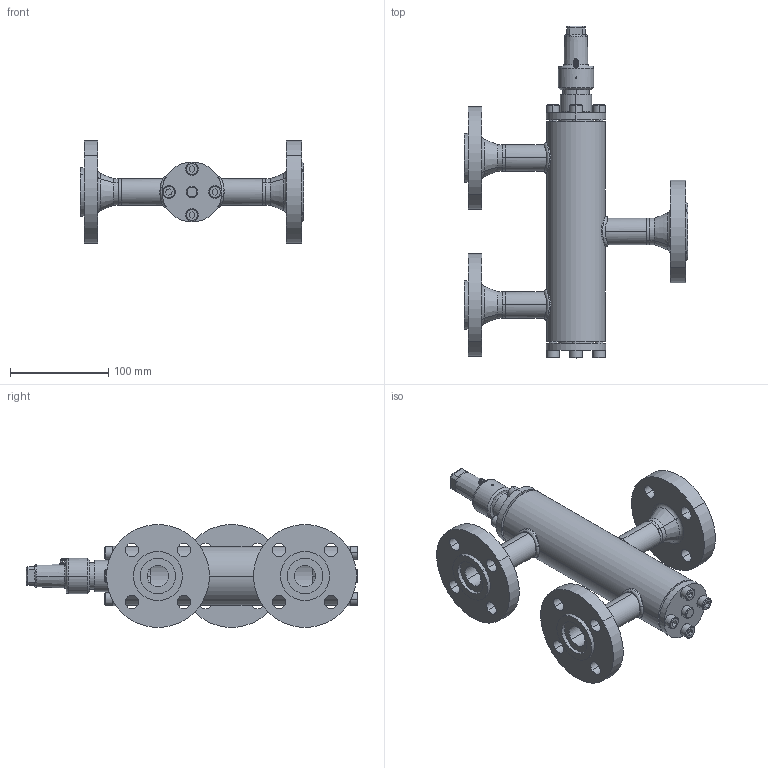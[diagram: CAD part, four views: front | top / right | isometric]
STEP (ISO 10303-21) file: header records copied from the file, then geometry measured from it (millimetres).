
FILE_DESCRIPTION (( 'STEP AP214' ), '1' );
FILE_NAME ('WVR24020D11-DN020_DIN-FL-N-F_PS40.STEP', '2010-09-08T08:48:04', ( 'Eckhard Grams' ), ( 'AWP Kälte Klima Armaturen GmbH' ), 'SwSTEP 2.0', 'SolidWorks 2002296', '' );
FILE_SCHEMA (( 'AUTOMOTIVE_DESIGN' ));
Length unit declared in the file: millimetre
Products named in the file (18): WVR24020D11-DN020_DIN-FL-N-F_PS40; Geh,kpl24020E11-DN20_DIN-FL-N-F_PS40_Standard; Geh,kpl24000E11_DN20_R1_PS40_Standard; Gehäuse24000E11-DN20_R1_PS40_Standard; Rohrstutzen-24000E11-DN20_R1_Standard; Schw-24000E11-DN20_Standard; Flansch-DIN2635-Nut_PS40_DIN-Flansch-DN020_PS40-Nut; Flansch-DIN2635-Feder_PS40_DIN-Flansch-DN020_PS40-Feder; bead24020-11-1_Standard; bead24020-11-3_Standard; bead24020-11-2_Standard; WVB-R23000K10_Deck+Schr-DN10-20_Standard; Deckel24000E10-DN10-20_Standard; Zylinderschraube-DIN912_M 8x  25; Kappe 96300E10_DN6-20 (M27x2)_Standard; AVR26300K10_Deck+Schr-DN10-20_Standard; Zylinderschraube-DIN912_M 8x  16; Deckel26300K10-DN10-20_Standard
Assembly tree (28 placements, depth 4):
  WVR24020D11-DN020_DIN-FL-N-F_PS40
    Kappe 96300E10_DN6-20 (M27x2)_Standard
    WVB-R23000K10_Deck+Schr-DN10-20_Standard
      Zylinderschraube-DIN912_M 8x  25  x4
      Deckel24000E10-DN10-20_Standard
    AVR26300K10_Deck+Schr-DN10-20_Standard
      Zylinderschraube-DIN912_M 8x  16  x4
      Deckel26300K10-DN10-20_Standard
    Geh,kpl24020E11-DN20_DIN-FL-N-F_PS40_Standard
      Geh,kpl24000E11_DN20_R1_PS40_Standard
        Schw-24000E11-DN20_Standard  x3
        Rohrstutzen-24000E11-DN20_R1_Standard  x3
        Gehäuse24000E11-DN20_R1_PS40_Standard
      Flansch-DIN2635-Feder_PS40_DIN-Flansch-DN020_PS40-Feder  x2
      bead24020-11-3_Standard
      Flansch-DIN2635-Nut_PS40_DIN-Flansch-DN020_PS40-Nut
      bead24020-11-2_Standard
      bead24020-11-1_Standard
Bounding box: 228 x 338.5 x 104.6 mm (x, y, z)
Volume: 948756.7 mm3; surface area: 223154.7 mm2
Topology: 24 solids, 24 shells, 514 faces, 1185 edges, 745 vertices
Faces by surface type: cylinder 222, plane 144, cone 67, torus 47, bspline 34
Entity records: 27879 total; most frequent: CARTESIAN_POINT 18716, DIRECTION 1711, ORIENTED_EDGE 1602, EDGE_CURVE 801, AXIS2_PLACEMENT_3D 726, VERTEX_POINT 503, EDGE_LOOP 412, CIRCLE 378
